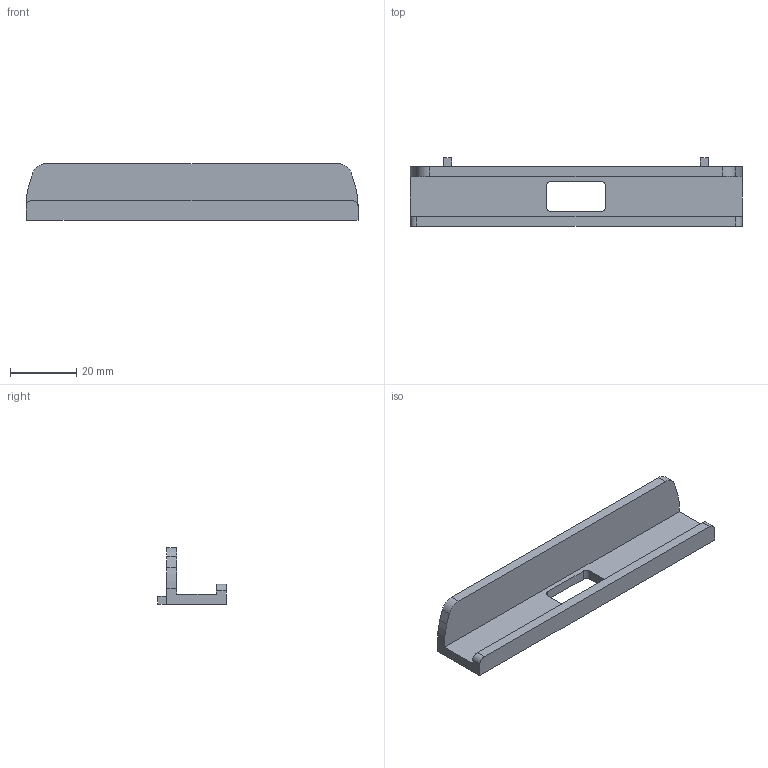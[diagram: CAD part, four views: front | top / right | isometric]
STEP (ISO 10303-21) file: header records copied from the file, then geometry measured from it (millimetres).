
FILE_DESCRIPTION(/* description */ ('','CAx-IF Rec.Pracs.---Representation and Presentation of Product Manufacturing Information (PMI)---4.0---2014-10-13'),/* implementation_level */ '2;1');
FILE_NAME(/* name */ 'Ablage.step',/* time_stamp */ '2025-01-07T21:37:48+01:00',/* author */ (''),/* organization */ (''),/* preprocessor_version */ 'ST-DEVELOPER v20',/* originating_system */ 'Autodesk Translation Framework v13.20.0.188',/* authorisation */ '');
FILE_SCHEMA (('AP242_MANAGED_MODEL_BASED_3D_ENGINEERING_MIM_LF { 1 0 10303 442 1 1 4 }'));
Length unit declared in the file: millimetre
Products named in the file (1): 02_Ablage
Bounding box: 100 x 20.7 x 17 mm (x, y, z)
Volume: 9952.1 mm3; surface area: 7605 mm2
Topology: 1 solids, 1 shells, 34 faces, 96 edges, 64 vertices
Faces by surface type: plane 24, cylinder 10
Entity records: 1144 total; most frequent: CARTESIAN_POINT 195, ORIENTED_EDGE 192, DIRECTION 186, EDGE_CURVE 96, LINE 76, VECTOR 76, VERTEX_POINT 64, AXIS2_PLACEMENT_3D 55
